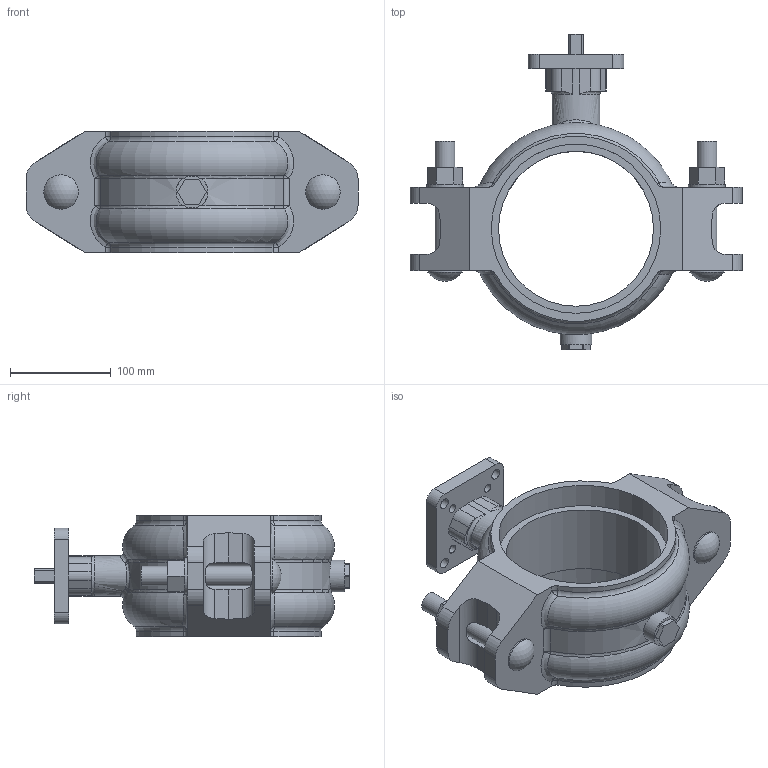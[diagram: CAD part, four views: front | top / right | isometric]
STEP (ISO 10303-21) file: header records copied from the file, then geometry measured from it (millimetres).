
FILE_DESCRIPTION(/* description */ ('VIC SS IR VALVE BUTTERFLY BARE SERIES 124 (OGS)','CAx-IF Rec.Pracs.---Representation and Presentation of Product Manufacturing Information (PMI)---4.0---2014-10-13'),/* implementation_level */ '2;1');
FILE_NAME(/* name */ 'C:\IR-124\step\Victaulic_SS-OGS_Valve Butterfly Bare_IR_Series 124 (OGS)\Victaulic_SS-OGS_Valve Butterfly Bare_IR_Series 124 (OGS)_6 (150).stp',/* time_stamp */ '2021-08-02T15:24:34+06:00',/* author */ ('Vjadhav'),/* organization */ ('Victaulic'),/* preprocessor_version */ 'ST-DEVELOPER v17.2',/* originating_system */ 'Autodesk Inventor 2019',/* authorisation */ '');
FILE_SCHEMA (('AP242_MANAGED_MODEL_BASED_3D_ENGINEERING_MIM_LF { 1 0 10303 442 1 1 4 }'));
Length unit declared in the file: inch
Products named in the file (1): 124-06.0
Bounding box: 329.95 x 313.94 x 120.9 mm (x, y, z)
Volume: 2501973.2 mm3; surface area: 263677.1 mm2
Topology: 1 solids, 1 shells, 212 faces, 553 edges, 356 vertices
Faces by surface type: plane 91, cylinder 70, bspline 19, sphere 18, torus 14
Full cylindrical faces by diameter (mm): 8.788 x4, 10.795 x4, 19.812 x4, 31.75 x1, 34.29 x2, 36.83 x2, 153.987 x1, 168.275 x2
Entity records: 8006 total; most frequent: CARTESIAN_POINT 2380, DIRECTION 1124, ORIENTED_EDGE 1106, EDGE_CURVE 553, AXIS2_PLACEMENT_3D 424, VERTEX_POINT 356, LINE 276, VECTOR 276
